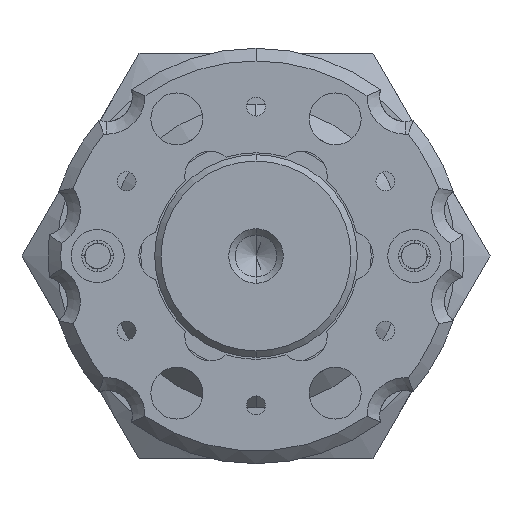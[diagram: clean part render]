
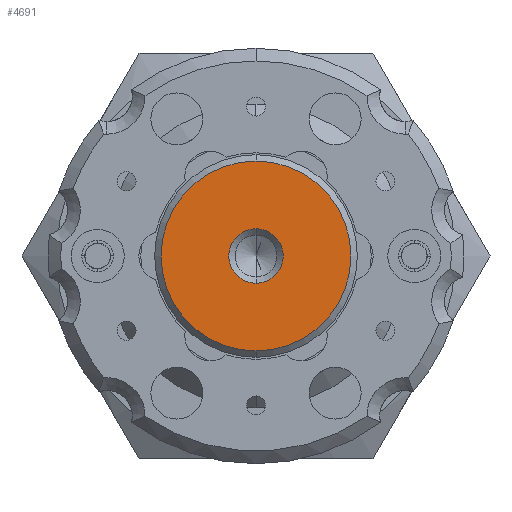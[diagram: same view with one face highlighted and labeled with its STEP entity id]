
A CAD part, front view. The second image highlights one B-rep face of the part: STEP entity #4691.
In plain terms, the highlighted planar face has unit normal (0, -1, 0) as drawn and (0, 1, 0) by its records, which use the part's own axes.
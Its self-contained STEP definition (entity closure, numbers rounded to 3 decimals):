
#4525 = EDGE_CURVE ( 'NONE', #4563, #4564, #14891, .T. ) ;
#4563 = VERTEX_POINT ( 'NONE', #14954 ) ;
#4564 = VERTEX_POINT ( 'NONE', #14948 ) ;
#4609 = VERTEX_POINT ( 'NONE', #15003 ) ;
#4610 = EDGE_CURVE ( 'NONE', #4611, #4609, #15015, .T. ) ;
#4611 = VERTEX_POINT ( 'NONE', #14997 ) ;
#4629 = ORIENTED_EDGE ( 'NONE', *, *, #4610, .T. ) ;
#4630 = EDGE_LOOP ( 'NONE', ( #4629, #4689 ) ) ;
#4631 = EDGE_CURVE ( 'NONE', #4609, #4611, #15038, .T. ) ;
#4689 = ORIENTED_EDGE ( 'NONE', *, *, #4631, .T. ) ;
#4691 = ADVANCED_FACE ( 'NONE', ( #15147, #15084 ), #15087, .F. ) ;
#4692 = EDGE_CURVE ( 'NONE', #4564, #4563, #15139, .T. ) ;
#4695 = ORIENTED_EDGE ( 'NONE', *, *, #4692, .T. ) ;
#4696 = EDGE_LOOP ( 'NONE', ( #4695, #4697 ) ) ;
#4697 = ORIENTED_EDGE ( 'NONE', *, *, #4525, .T. ) ;
#14883 = DIRECTION ( 'NONE',  ( 0., 0., -1. ) ) ;
#14884 = DIRECTION ( 'NONE',  ( 0., 1., 0. ) ) ;
#14885 = CARTESIAN_POINT ( 'NONE',  ( 0., 12., 0. ) ) ;
#14890 = AXIS2_PLACEMENT_3D ( 'NONE', #14885, #14884, #14883 ) ;
#14891 = CIRCLE ( 'NONE', #14890, 7.5 ) ;
#14948 = CARTESIAN_POINT ( 'NONE',  ( 0., 12., -7.5 ) ) ;
#14954 = CARTESIAN_POINT ( 'NONE',  ( 0., 12., 7.5 ) ) ;
#14993 = DIRECTION ( 'NONE',  ( 0., 0., -1. ) ) ;
#14994 = DIRECTION ( 'NONE',  ( 0., -1., 0. ) ) ;
#14995 = AXIS2_PLACEMENT_3D ( 'NONE', #15001, #14994, #14993 ) ;
#14997 = CARTESIAN_POINT ( 'NONE',  ( 0., 12., 2.15 ) ) ;
#15001 = CARTESIAN_POINT ( 'NONE',  ( 0., 12., 0. ) ) ;
#15003 = CARTESIAN_POINT ( 'NONE',  ( 0., 12., -2.15 ) ) ;
#15015 = CIRCLE ( 'NONE', #14995, 2.15 ) ;
#15021 = DIRECTION ( 'NONE',  ( 0., 0., -1. ) ) ;
#15022 = DIRECTION ( 'NONE',  ( 0., -1., 0. ) ) ;
#15031 = AXIS2_PLACEMENT_3D ( 'NONE', #15035, #15022, #15021 ) ;
#15035 = CARTESIAN_POINT ( 'NONE',  ( 0., 12., 0. ) ) ;
#15038 = CIRCLE ( 'NONE', #15031, 2.15 ) ;
#15084 = FACE_OUTER_BOUND ( 'NONE', #4696, .T. ) ;
#15087 = PLANE ( 'NONE',  #15142 ) ;
#15131 = DIRECTION ( 'NONE',  ( 0., 0., -1. ) ) ;
#15132 = DIRECTION ( 'NONE',  ( 0., 1., 0. ) ) ;
#15133 = CARTESIAN_POINT ( 'NONE',  ( 0., 12., 0. ) ) ;
#15135 = DIRECTION ( 'NONE',  ( 0., 0., -1. ) ) ;
#15136 = DIRECTION ( 'NONE',  ( 0., -1., 0. ) ) ;
#15137 = CARTESIAN_POINT ( 'NONE',  ( -8., 12., 0. ) ) ;
#15139 = CIRCLE ( 'NONE', #15143, 7.5 ) ;
#15142 = AXIS2_PLACEMENT_3D ( 'NONE', #15137, #15136, #15135 ) ;
#15143 = AXIS2_PLACEMENT_3D ( 'NONE', #15133, #15132, #15131 ) ;
#15147 = FACE_BOUND ( 'NONE', #4630, .T. ) ;
